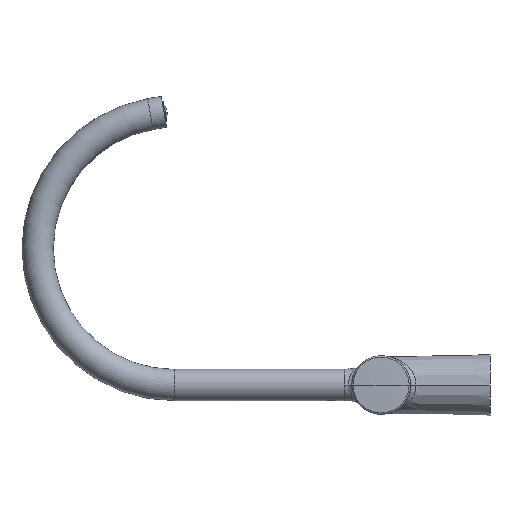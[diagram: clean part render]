
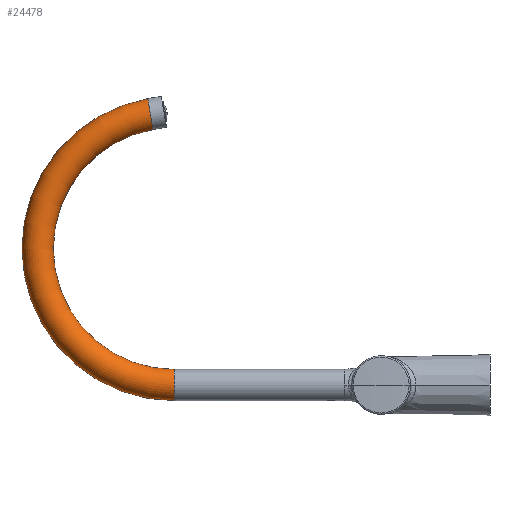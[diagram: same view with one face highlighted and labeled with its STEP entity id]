
A CAD part, left-side view. The second image highlights one B-rep face of the part: STEP entity #24478.
In plain terms, the highlighted toroidal (fillet/blend) face has major radius 100.394 mm and minor radius 11.5 mm.
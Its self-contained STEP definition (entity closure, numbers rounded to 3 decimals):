
#24359=CARTESIAN_POINT('',(0.,232.28,0.));
#24360=DIRECTION('',(0.,1.,0.));
#24361=DIRECTION('',(0.,0.,-1.));
#24362=AXIS2_PLACEMENT_3D('',#24359,#24360,#24361);
#24364=CARTESIAN_POINT('',(0.,232.28,100.394));
#24365=DIRECTION('',(1.,0.,0.));
#24366=DIRECTION('',(0.,0.,-1.));
#24367=AXIS2_PLACEMENT_3D('',#24364,#24365,#24366);
#24374=CARTESIAN_POINT('',(0.,232.28,100.394));
#24375=DIRECTION('',(1.,0.,0.));
#24376=DIRECTION('',(0.,0.,-1.));
#24377=AXIS2_PLACEMENT_3D('',#24374,#24375,#24376);
#24388=CARTESIAN_POINT('',(0.,249.713,
199.264));
#24389=DIRECTION('',(0.,-0.985,0.174));
#24390=DIRECTION('',(0.,0.174,0.985));
#24391=AXIS2_PLACEMENT_3D('',#24388,#24389,#24390);
#24411=CARTESIAN_POINT('',(0.,232.28,11.5));
#24412=CARTESIAN_POINT('',(0.,232.28,-11.5));
#24413=VERTEX_POINT('',#24411);
#24414=VERTEX_POINT('',#24412);
#24415=CARTESIAN_POINT('',(0.,247.716,
187.938));
#24416=CARTESIAN_POINT('',(0.,251.71,
210.589));
#24417=VERTEX_POINT('',#24415);
#24418=VERTEX_POINT('',#24416);
#24464=CARTESIAN_POINT('',(0.,232.28,100.394));
#24465=DIRECTION('',(1.,0.,0.));
#24466=DIRECTION('',(0.,0.,1.));
#24467=AXIS2_PLACEMENT_3D('',#24464,#24465,#24466);
#24468=TOROIDAL_SURFACE('',#24467,100.394,11.5);
#24469=ORIENTED_EDGE('',*,*,#24456,.F.);
#24471=ORIENTED_EDGE('',*,*,#24470,.T.);
#24473=ORIENTED_EDGE('',*,*,#24472,.T.);
#24475=ORIENTED_EDGE('',*,*,#24474,.F.);
#24476=EDGE_LOOP('',(#24469,#24471,#24473,#24475));
#24477=FACE_OUTER_BOUND('',#24476,.F.);
#24478=ADVANCED_FACE('',(#24477),#24468,.T.);
#24363=CIRCLE('',#24362,11.5);
#24368=CIRCLE('',#24367,111.894);
#24378=CIRCLE('',#24377,88.894);
#24392=CIRCLE('',#24391,11.5);
#24456=EDGE_CURVE('',#24414,#24413,#24363,.T.);
#24470=EDGE_CURVE('',#24414,#24418,#24368,.T.);
#24472=EDGE_CURVE('',#24418,#24417,#24392,.T.);
#24474=EDGE_CURVE('',#24413,#24417,#24378,.T.);
